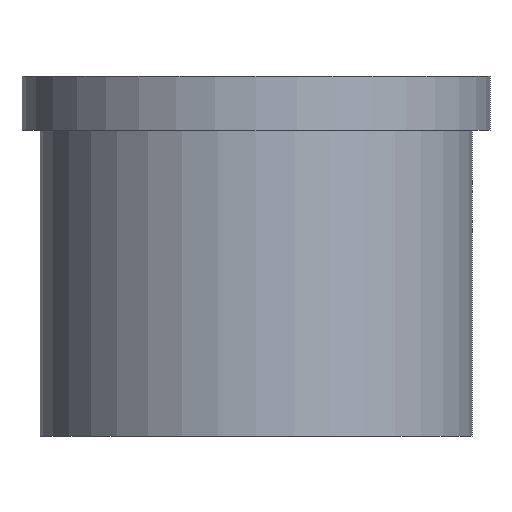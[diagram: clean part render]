
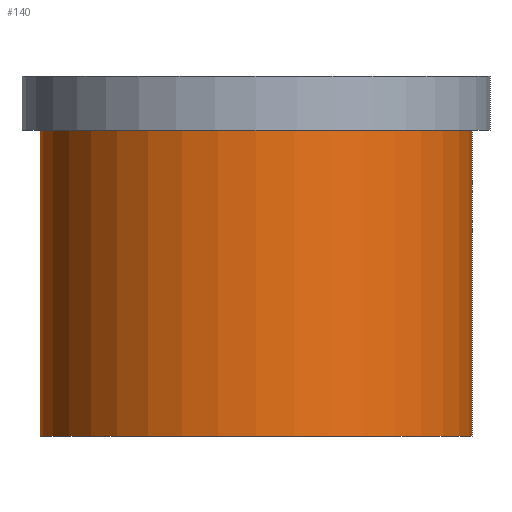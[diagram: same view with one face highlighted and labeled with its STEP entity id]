
A CAD part, front view. The second image highlights one B-rep face of the part: STEP entity #140.
In plain terms, the highlighted cylindrical face has radius 12 mm (diameter 24 mm), a partial arc.
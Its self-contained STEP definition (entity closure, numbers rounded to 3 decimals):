
#101=CYLINDRICAL_SURFACE('',#313,12.);
#107=LINE('',#441,#113);
#108=LINE('',#442,#114);
#113=VECTOR('',#383,1.);
#114=VECTOR('',#384,1.);
#127=FACE_OUTER_BOUND('',#165,.T.);
#140=ADVANCED_FACE('',(#127),#101,.T.);
#165=EDGE_LOOP('',(#211,#212,#213,#214));
#211=ORIENTED_EDGE('',*,*,#259,.T.);
#212=ORIENTED_EDGE('',*,*,#236,.F.);
#213=ORIENTED_EDGE('',*,*,#260,.F.);
#214=ORIENTED_EDGE('',*,*,#257,.T.);
#219=VERTEX_POINT('',#391);
#220=VERTEX_POINT('',#392);
#233=VERTEX_POINT('',#437);
#234=VERTEX_POINT('',#438);
#236=EDGE_CURVE('',#220,#219,#262,.T.);
#257=EDGE_CURVE('',#233,#234,#279,.T.);
#259=EDGE_CURVE('',#234,#219,#107,.T.);
#260=EDGE_CURVE('',#233,#220,#108,.T.);
#262=CIRCLE('',#283,12.);
#279=CIRCLE('',#310,12.);
#283=AXIS2_PLACEMENT_3D('',#393,#319,#320);
#310=AXIS2_PLACEMENT_3D('',#436,#377,#378);
#313=AXIS2_PLACEMENT_3D('',#443,#385,#386);
#319=DIRECTION('',(0.,0.,-1.));
#320=DIRECTION('',(0.,1.,0.));
#377=DIRECTION('',(0.,0.,-1.));
#378=DIRECTION('',(0.,1.,0.));
#383=DIRECTION('',(0.,0.,-1.));
#384=DIRECTION('',(0.,0.,-1.));
#385=DIRECTION('',(0.,0.,-1.));
#386=DIRECTION('',(0.,-1.,0.));
#391=CARTESIAN_POINT('',(-12.,0.,-17.));
#392=CARTESIAN_POINT('',(12.,0.,-17.));
#393=CARTESIAN_POINT('',(0.,0.,-17.));
#436=CARTESIAN_POINT('',(0.,0.,0.));
#437=CARTESIAN_POINT('',(12.,0.,0.));
#438=CARTESIAN_POINT('',(-12.,0.,0.));
#441=CARTESIAN_POINT('',(-12.,0.,-17.));
#442=CARTESIAN_POINT('',(12.,0.,-17.));
#443=CARTESIAN_POINT('',(0.,0.,0.));
